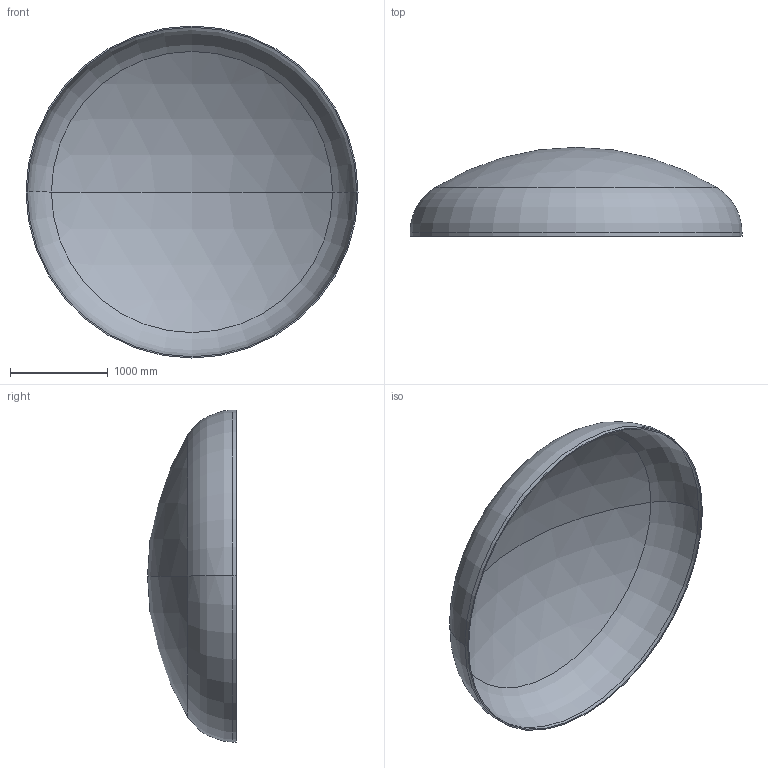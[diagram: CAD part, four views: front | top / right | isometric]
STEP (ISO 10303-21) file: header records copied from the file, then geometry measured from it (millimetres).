
FILE_DESCRIPTION (( 'STEP AP203' ), '1' );
FILE_NAME ('DIN 28013 Korbbogenform_-_Boden DIN 28013 - 3400 x 40 - I - s=13.step', '2016-07-01T19:11:43', ( '' ), ( '' ), 'SwSTEP 2.0', 'SolidWorks 2013', '' );
FILE_SCHEMA (( 'CONFIG_CONTROL_DESIGN' ));
Length unit declared in the file: millimetre
Products named in the file (1): DIN 28013 Korbbogenform_-_Boden DIN 28013 - 3400 x 40 - I - s=13
Bounding box: 3400 x 910.8 x 3400 mm (x, y, z)
Volume: 168271664.2 mm3; surface area: 26026619.3 mm2
Topology: 1 solids, 1 shells, 13 faces, 24 edges, 14 vertices
Faces by surface type: torus 4, cylinder 4, sphere 4, plane 1
Entity records: 407 total; most frequent: DIRECTION 72, CARTESIAN_POINT 52, ORIENTED_EDGE 48, AXIS2_PLACEMENT_3D 34, EDGE_CURVE 24, CIRCLE 20, VERTEX_POINT 14, EDGE_LOOP 14
